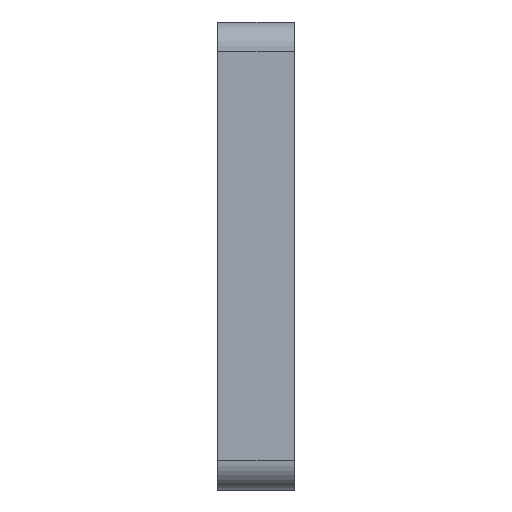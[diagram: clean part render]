
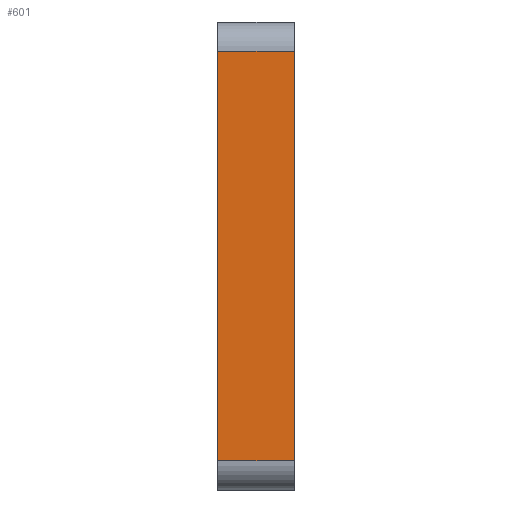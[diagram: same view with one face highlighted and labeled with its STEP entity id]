
A CAD part, left-side view. The second image highlights one B-rep face of the part: STEP entity #601.
In plain terms, the highlighted planar face has unit normal (-1, 0, 0).
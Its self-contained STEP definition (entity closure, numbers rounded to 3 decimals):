
#18 = VERTEX_POINT ( 'NONE', #253 ) ;
#123 = FACE_OUTER_BOUND ( 'NONE', #1073, .T. ) ;
#205 = CARTESIAN_POINT ( 'NONE',  ( -100., 13., -20. ) ) ;
#226 = VERTEX_POINT ( 'NONE', #548 ) ;
#227 = VECTOR ( 'NONE', #1472, 1000. ) ;
#253 = CARTESIAN_POINT ( 'NONE',  ( -100., 0., -15. ) ) ;
#350 = DIRECTION ( 'NONE',  ( 0., -1., 0. ) ) ;
#357 = CARTESIAN_POINT ( 'NONE',  ( -100., 13., 55. ) ) ;
#370 = LINE ( 'NONE', #1569, #929 ) ;
#389 = ORIENTED_EDGE ( 'NONE', *, *, #691, .T. ) ;
#428 = ORIENTED_EDGE ( 'NONE', *, *, #1244, .F. ) ;
#542 = DIRECTION ( 'NONE',  ( 0., 0., 1. ) ) ;
#548 = CARTESIAN_POINT ( 'NONE',  ( -100., 13., -15. ) ) ;
#594 = PLANE ( 'NONE',  #1076 ) ;
#601 = ADVANCED_FACE ( 'NONE', ( #123 ), #594, .F. ) ;
#667 = EDGE_CURVE ( 'NONE', #18, #226, #370, .T. ) ;
#675 = CARTESIAN_POINT ( 'NONE',  ( -100., 0., 55. ) ) ;
#691 = EDGE_CURVE ( 'NONE', #18, #1062, #1277, .T. ) ;
#720 = CARTESIAN_POINT ( 'NONE',  ( -100., 13., 55. ) ) ;
#733 = ORIENTED_EDGE ( 'NONE', *, *, #667, .F. ) ;
#776 = LINE ( 'NONE', #1481, #227 ) ;
#874 = VECTOR ( 'NONE', #350, 1000. ) ;
#929 = VECTOR ( 'NONE', #1548, 1000. ) ;
#975 = EDGE_CURVE ( 'NONE', #1386, #1062, #1474, .T. ) ;
#1062 = VERTEX_POINT ( 'NONE', #675 ) ;
#1073 = EDGE_LOOP ( 'NONE', ( #1458, #428, #733, #389 ) ) ;
#1076 = AXIS2_PLACEMENT_3D ( 'NONE', #205, #1078, #1595 ) ;
#1078 = DIRECTION ( 'NONE',  ( 1., 0., 0. ) ) ;
#1244 = EDGE_CURVE ( 'NONE', #226, #1386, #776, .T. ) ;
#1277 = LINE ( 'NONE', #1459, #1568 ) ;
#1386 = VERTEX_POINT ( 'NONE', #720 ) ;
#1458 = ORIENTED_EDGE ( 'NONE', *, *, #975, .F. ) ;
#1459 = CARTESIAN_POINT ( 'NONE',  ( -100., 0., -20. ) ) ;
#1472 = DIRECTION ( 'NONE',  ( 0., 0., 1. ) ) ;
#1474 = LINE ( 'NONE', #357, #874 ) ;
#1481 = CARTESIAN_POINT ( 'NONE',  ( -100., 13., -20. ) ) ;
#1548 = DIRECTION ( 'NONE',  ( 0., 1., 0. ) ) ;
#1568 = VECTOR ( 'NONE', #542, 1000. ) ;
#1569 = CARTESIAN_POINT ( 'NONE',  ( -100., 13., -15. ) ) ;
#1595 = DIRECTION ( 'NONE',  ( 0., 0., -1. ) ) ;
